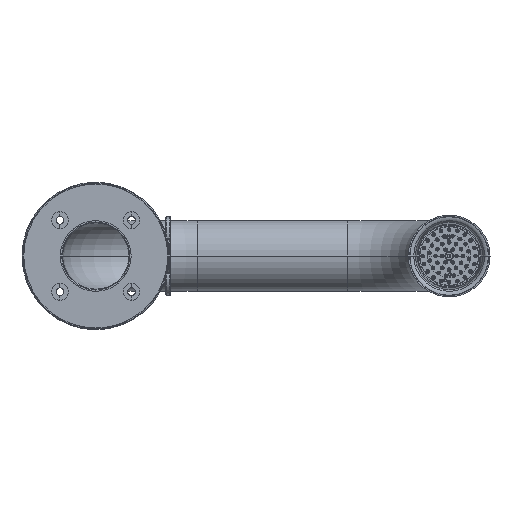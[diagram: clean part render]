
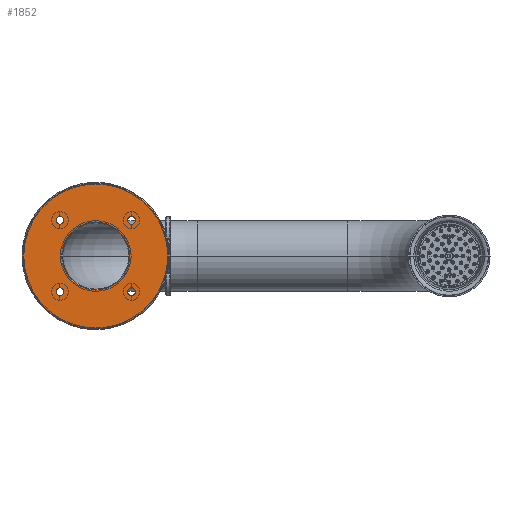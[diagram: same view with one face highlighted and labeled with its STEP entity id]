
A CAD part, front view. The second image highlights one B-rep face of the part: STEP entity #1852.
In plain terms, the highlighted planar face has unit normal (0, -1, 0).
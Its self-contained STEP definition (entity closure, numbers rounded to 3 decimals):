
#69=CARTESIAN_POINT('',(0.,-6.,0.));
#70=DIRECTION('',(0.,-1.,0.));
#71=DIRECTION('',(0.,0.,1.));
#72=AXIS2_PLACEMENT_3D('',#69,#70,#71);
#74=CARTESIAN_POINT('',(0.,-6.,0.));
#75=DIRECTION('',(0.,-1.,0.));
#76=DIRECTION('',(0.,0.,-1.));
#77=AXIS2_PLACEMENT_3D('',#74,#75,#76);
#79=CARTESIAN_POINT('',(-40.5,-6.,40.5));
#80=DIRECTION('',(0.,1.,0.));
#81=DIRECTION('',(0.,0.,-1.));
#82=AXIS2_PLACEMENT_3D('',#79,#80,#81);
#84=CARTESIAN_POINT('',(-40.5,-6.,40.5));
#85=DIRECTION('',(0.,1.,0.));
#86=DIRECTION('',(0.,0.,1.));
#87=AXIS2_PLACEMENT_3D('',#84,#85,#86);
#89=CARTESIAN_POINT('',(-40.5,-6.,-40.5));
#90=DIRECTION('',(0.,-1.,0.));
#91=DIRECTION('',(0.,0.,1.));
#92=AXIS2_PLACEMENT_3D('',#89,#90,#91);
#94=CARTESIAN_POINT('',(-40.5,-6.,-40.5));
#95=DIRECTION('',(0.,-1.,0.));
#96=DIRECTION('',(0.,0.,-1.));
#97=AXIS2_PLACEMENT_3D('',#94,#95,#96);
#99=CARTESIAN_POINT('',(40.5,-6.,-40.5));
#100=DIRECTION('',(0.,1.,0.));
#101=DIRECTION('',(0.,0.,1.));
#102=AXIS2_PLACEMENT_3D('',#99,#100,#101);
#104=CARTESIAN_POINT('',(40.5,-6.,-40.5));
#105=DIRECTION('',(0.,1.,0.));
#106=DIRECTION('',(0.,0.,-1.));
#107=AXIS2_PLACEMENT_3D('',#104,#105,#106);
#109=CARTESIAN_POINT('',(40.5,-6.,40.5));
#110=DIRECTION('',(0.,-1.,0.));
#111=DIRECTION('',(0.,0.,-1.));
#112=AXIS2_PLACEMENT_3D('',#109,#110,#111);
#114=CARTESIAN_POINT('',(40.5,-6.,40.5));
#115=DIRECTION('',(0.,-1.,0.));
#116=DIRECTION('',(0.,0.,1.));
#117=AXIS2_PLACEMENT_3D('',#114,#115,#116);
#119=CARTESIAN_POINT('',(0.,-6.,0.));
#120=DIRECTION('',(0.,1.,0.));
#121=DIRECTION('',(0.,0.,-1.));
#122=AXIS2_PLACEMENT_3D('',#119,#120,#121);
#124=CARTESIAN_POINT('',(0.,-6.,0.));
#125=DIRECTION('',(0.,1.,0.));
#126=DIRECTION('',(0.,0.,1.));
#127=AXIS2_PLACEMENT_3D('',#124,#125,#126);
#1585=CARTESIAN_POINT('',(-40.5,-6.,36.));
#1586=CARTESIAN_POINT('',(-40.5,-6.,45.));
#1587=VERTEX_POINT('',#1585);
#1588=VERTEX_POINT('',#1586);
#1605=CARTESIAN_POINT('',(-40.5,-6.,-36.));
#1606=CARTESIAN_POINT('',(-40.5,-6.,-45.));
#1607=VERTEX_POINT('',#1605);
#1608=VERTEX_POINT('',#1606);
#1609=CARTESIAN_POINT('',(40.5,-6.,-36.));
#1610=CARTESIAN_POINT('',(40.5,-6.,-45.));
#1611=VERTEX_POINT('',#1609);
#1612=VERTEX_POINT('',#1610);
#1613=CARTESIAN_POINT('',(40.5,-6.,36.));
#1614=CARTESIAN_POINT('',(40.5,-6.,45.));
#1615=VERTEX_POINT('',#1613);
#1616=VERTEX_POINT('',#1614);
#1617=CARTESIAN_POINT('',(0.,-6.,-38.5));
#1618=CARTESIAN_POINT('',(0.,-6.,38.5));
#1619=VERTEX_POINT('',#1617);
#1620=VERTEX_POINT('',#1618);
#1629=CARTESIAN_POINT('',(0.,-6.,82.5));
#1630=CARTESIAN_POINT('',(0.,-6.,-82.5));
#1631=VERTEX_POINT('',#1629);
#1632=VERTEX_POINT('',#1630);
#1812=CARTESIAN_POINT('',(0.,-6.,0.));
#1813=DIRECTION('',(0.,1.,0.));
#1814=DIRECTION('',(0.,0.,-1.));
#1815=AXIS2_PLACEMENT_3D('',#1812,#1813,#1814);
#1816=PLANE('',#1815);
#1818=ORIENTED_EDGE('',*,*,#1817,.F.);
#1820=ORIENTED_EDGE('',*,*,#1819,.F.);
#1821=EDGE_LOOP('',(#1818,#1820));
#1822=FACE_OUTER_BOUND('',#1821,.F.);
#1824=ORIENTED_EDGE('',*,*,#1823,.F.);
#1826=ORIENTED_EDGE('',*,*,#1825,.F.);
#1827=EDGE_LOOP('',(#1824,#1826));
#1828=FACE_BOUND('',#1827,.F.);
#1830=ORIENTED_EDGE('',*,*,#1829,.T.);
#1832=ORIENTED_EDGE('',*,*,#1831,.T.);
#1833=EDGE_LOOP('',(#1830,#1832));
#1834=FACE_BOUND('',#1833,.F.);
#1836=ORIENTED_EDGE('',*,*,#1835,.F.);
#1838=ORIENTED_EDGE('',*,*,#1837,.F.);
#1839=EDGE_LOOP('',(#1836,#1838));
#1840=FACE_BOUND('',#1839,.F.);
#1842=ORIENTED_EDGE('',*,*,#1841,.T.);
#1844=ORIENTED_EDGE('',*,*,#1843,.T.);
#1845=EDGE_LOOP('',(#1842,#1844));
#1846=FACE_BOUND('',#1845,.F.);
#1848=ORIENTED_EDGE('',*,*,#1847,.F.);
#1849=ORIENTED_EDGE('',*,*,#1795,.F.);
#1850=EDGE_LOOP('',(#1848,#1849));
#1851=FACE_BOUND('',#1850,.F.);
#73=CIRCLE('',#72,82.5);
#78=CIRCLE('',#77,82.5);
#83=CIRCLE('',#82,4.5);
#88=CIRCLE('',#87,4.5);
#93=CIRCLE('',#92,4.5);
#98=CIRCLE('',#97,4.5);
#103=CIRCLE('',#102,4.5);
#108=CIRCLE('',#107,4.5);
#113=CIRCLE('',#112,4.5);
#118=CIRCLE('',#117,4.5);
#123=CIRCLE('',#122,38.5);
#128=CIRCLE('',#127,38.5);
#1795=EDGE_CURVE('',#1620,#1619,#128,.T.);
#1817=EDGE_CURVE('',#1631,#1632,#73,.T.);
#1819=EDGE_CURVE('',#1632,#1631,#78,.T.);
#1823=EDGE_CURVE('',#1587,#1588,#83,.T.);
#1825=EDGE_CURVE('',#1588,#1587,#88,.T.);
#1829=EDGE_CURVE('',#1607,#1608,#93,.T.);
#1831=EDGE_CURVE('',#1608,#1607,#98,.T.);
#1835=EDGE_CURVE('',#1611,#1612,#103,.T.);
#1837=EDGE_CURVE('',#1612,#1611,#108,.T.);
#1841=EDGE_CURVE('',#1615,#1616,#113,.T.);
#1843=EDGE_CURVE('',#1616,#1615,#118,.T.);
#1847=EDGE_CURVE('',#1619,#1620,#123,.T.);
#1852=ADVANCED_FACE('',(#1822,#1828,#1834,#1840,#1846,#1851),#1816,.F.);
